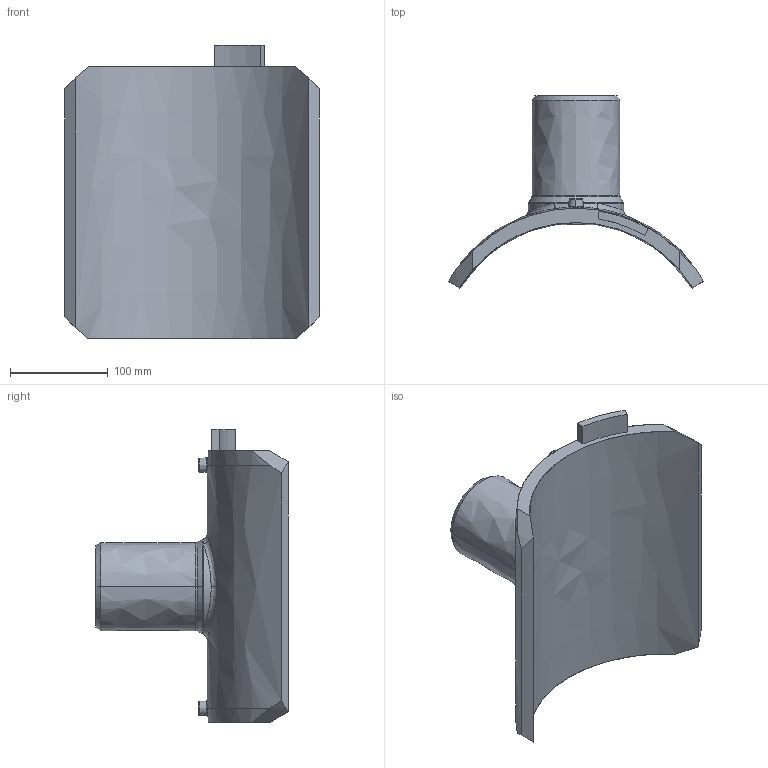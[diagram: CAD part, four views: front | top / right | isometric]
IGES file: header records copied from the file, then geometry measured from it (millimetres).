
Start section:  PTC IGES file: sa-uni_d280_90_01.igs
Global section: file name: sa-uni_d280_90_01.igs; native system: Pro/ENGINEER by Parametric Technology Corporation; preprocessor: 2011490; author: MikulicP; organization: Unknown; date: 20170202.145938; units: millimetre
Bounding box: 261 x 196.86 x 301 mm (x, y, z)
Surface area: 250434.6 mm2 (no closed solid volume)
Topology: 0 solids, 0 shells, 216 faces, 1070 edges, 1068 vertices
Faces by surface type: bspline 216
